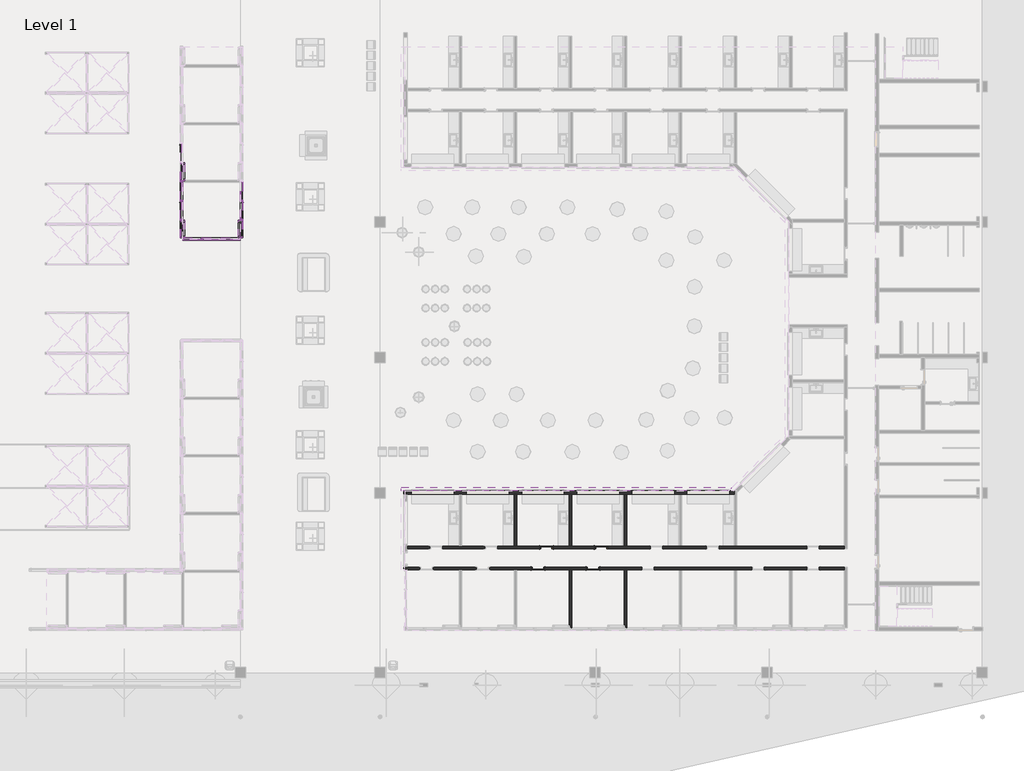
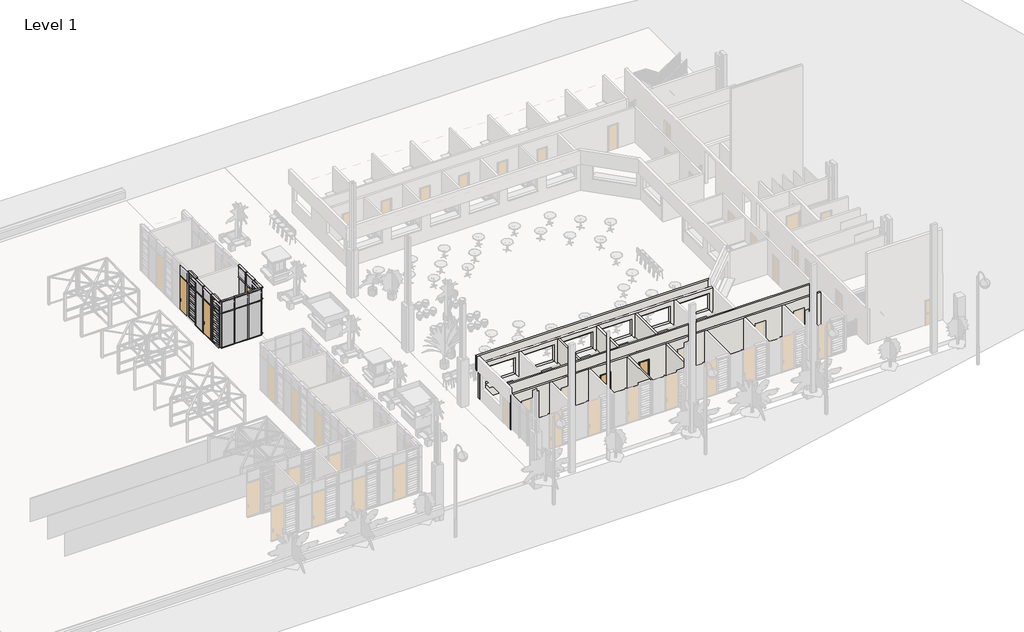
# One storey, part 10 of 32: 47 members, 19 plates, 9 walls, 7 doors.
"""IFC4 building model written with IfcOpenShell, lengths in millimetres."""

from ifc_helpers import new_model, si_unit, frame, origin, place, context, project, spatial, polyline, outline, extrude, faceted_brep, transform, mapped, element, save
from components import curtain_wall_door_single_glass_nz_curtain_wall_door_single_2bf20aac, curtain_wall_door_single_glass_nz_curtain_wall_door_single_ff8afd41, doors_intsgl_1_760x2110mm_a62a0124, rectangular_mullion_50x150mm_c4504768, rectangular_mullion_50x150mm_6c7cb899, rectangular_mullion_50x150mm_b0af8bb0, rectangular_mullion_50x150mm_bbc1c4ea, rectangular_mullion_50x150mm_1a36453b, rectangular_mullion_50x150mm_a65b6ca2, rectangular_mullion_50x150mm_38419d34, rectangular_mullion_50x150mm_eeb88b28, rectangular_mullion_50x150mm_68c91185, rectangular_mullion_50x150mm_0d540e17, rectangular_mullion_50x150mm_108cdc6f, rectangular_mullion_50x150mm_375c3673, rectangular_mullion_50x150mm_9239b3be, curtain_wall_panel_louver_20805_curtain_wall_panel_louver_14332c5b, curtain_wall_panel_louver_20805_curtain_wall_panel_louver_d3fb298f, curtain_wall_panel_louver_20805_curtain_wall_panel_louver_ac1eef51, curtain_wall_panel_glass_louver_20805_curtain_wall_panel_0f8e40a1, curtain_wall_panel_glass_louver_20805_curtain_wall_panel_1d079b44, curtain_wall_panel_glass_louver_20805_curtain_wall_panel_de26d37e, system_panel_glazed_a5e8ce8b, system_panel_glazed_7622d22c, system_panel_glazed_53fe5bbb, system_panel_glazed_57f08e05, system_panel_glazed_300e6ed4, system_panel_solid_585523e5, system_panel_solid_10c0fb46

model = new_model("IFC4")

# Units and contexts
model_context = context("Model", 3, world=origin())
ifc_project = project(units=[si_unit("LENGTHUNIT", "METRE", prefix="MILLI")], contexts=[model_context])

# Site, building, storey
site = spatial("IfcSite", under=ifc_project)
building = spatial("IfcBuilding", under=site)
storey = spatial("IfcBuildingStorey", under=building, Name="Level 1", Elevation=2800.0)

# Doors
placement = place(None, origin())
curtain_wall_door_single_glass_nz_curtain_wall_door_single_shape = curtain_wall_door_single_glass_nz_curtain_wall_door_single_2bf20aac(model_context)
element("IfcDoor", 1, ObjectType="Curtain Wall Door-Single-Glass (NZ) : Curtain Wall Door-Single-Glass (NZ)", at=placement, inside=storey, context=model_context, shape_type="MappedRepresentation", body=[
    mapped(curtain_wall_door_single_glass_nz_curtain_wall_door_single_shape, transform((-55155.3056755, -9355.9199596, 2850.0), x_axis=(0.0, -1.0, 0.0), y_axis=(1.0, 0.0, 0.0), z_axis=(0.0, 0.0, 1.0))),
])
curtain_wall_door_single_glass_nz_curtain_wall_door_single_2_shape = curtain_wall_door_single_glass_nz_curtain_wall_door_single_ff8afd41(model_context)
element("IfcDoor", 2, ObjectType="Curtain Wall Door-Single-Glass (NZ) : Curtain Wall Door-Single-Glass (NZ)", at=placement, inside=storey, context=model_context, shape_type="MappedRepresentation", body=[
    mapped(curtain_wall_door_single_glass_nz_curtain_wall_door_single_2_shape, transform((-58605.3056755, -6055.9199597, 2850.0), x_axis=(0.0, -1.0, 0.0), y_axis=(1.0, 0.0, 0.0), z_axis=(0.0, 0.0, 1.0))),
])
element("IfcDoor", 3, ObjectType="Curtain Wall Door-Single-Glass (NZ) : Curtain Wall Door-Single-Glass (NZ)", at=placement, inside=storey, context=model_context, shape_type="MappedRepresentation", body=[
    mapped(curtain_wall_door_single_glass_nz_curtain_wall_door_single_2_shape, transform((-58605.3056755, -9355.9199596, 2850.0), x_axis=(0.0, -1.0, 0.0), y_axis=(1.0, 0.0, 0.0), z_axis=(0.0, 0.0, 1.0))),
])
doors_intsgl_1_760x2110mm_shape = doors_intsgl_1_760x2110mm_a62a0124(model_context)
element("IfcDoor", 4, ObjectType="Doors_IntSgl_1 : 760x2110mm", at=placement, inside=storey, context=model_context, shape_type="MappedRepresentation", body=[
    mapped(doors_intsgl_1_760x2110mm_shape, transform((-35050.9339353, -29855.9199596, 2800.0), x_axis=(-1.0, 0.0, 0.0), y_axis=(0.0, -1.0, 0.0), z_axis=(0.0, 0.0, 1.0))),
])
element("IfcDoor", 5, ObjectType="Doors_IntSgl_1 : 760x2110mm", at=placement, inside=storey, context=model_context, shape_type="MappedRepresentation", body=[
    mapped(doors_intsgl_1_760x2110mm_shape, transform((-38200.9339353, -29855.9199596, 2800.0), x_axis=(-1.0, 0.0, 0.0), y_axis=(0.0, -1.0, 0.0), z_axis=(0.0, 0.0, 1.0))),
])
element("IfcDoor", 6, ObjectType="Doors_IntSgl_1 : 760x2110mm", at=placement, inside=storey, context=model_context, shape_type="MappedRepresentation", body=[
    mapped(doors_intsgl_1_760x2110mm_shape, transform((-34571.3056755, -28655.9199596, 2800.0), x_axis=(1.0, 0.0, 0.0), y_axis=(0.0, 1.0, 0.0), z_axis=(0.0, 0.0, 1.0))),
])
element("IfcDoor", 7, ObjectType="Doors_IntSgl_1 : 760x2110mm", at=placement, inside=storey, context=model_context, shape_type="MappedRepresentation", body=[
    mapped(doors_intsgl_1_760x2110mm_shape, transform((-37716.7705062, -28655.9199596, 2800.0), x_axis=(1.0, 0.0, 0.0), y_axis=(0.0, 1.0, 0.0), z_axis=(0.0, 0.0, 1.0))),
])

# Members
rectangular_mullion_50x150mm_shape = rectangular_mullion_50x150mm_c4504768(model_context)
element("IfcMember", 8, ObjectType="Rectangular Mullion : 50x150mm", at=placement, inside=storey, context=model_context, shape_type="MappedRepresentation", body=[
    mapped(rectangular_mullion_50x150mm_shape, transform((-55155.3056755, -8780.9199596, 5800.0), x_axis=(0.0, 0.0, 1.0), y_axis=(-1.0, 0.0, 0.0), z_axis=(0.0, -1.0, 0.0))),
])
element("IfcMember", 9, ObjectType="Rectangular Mullion : 50x150mm", at=placement, inside=storey, context=model_context, shape_type="MappedRepresentation", body=[
    mapped(rectangular_mullion_50x150mm_shape, transform((-55155.3056755, -9880.9199596, 5800.0), x_axis=(0.0, 0.0, 1.0), y_axis=(-1.0, 0.0, 0.0), z_axis=(0.0, -1.0, 0.0))),
])
element("IfcMember", 10, ObjectType="Rectangular Mullion : 50x150mm", at=placement, inside=storey, context=model_context, shape_type="MappedRepresentation", body=[
    mapped(rectangular_mullion_50x150mm_shape, transform((-57405.3056754, -11005.9199596, 5800.0), x_axis=(0.0, 0.0, 1.0), y_axis=(0.0, 1.0, 0.0), z_axis=(-1.0, 0.0, 0.0))),
])
rectangular_mullion_50x150mm_2_shape = rectangular_mullion_50x150mm_6c7cb899(model_context)
element("IfcMember", 11, ObjectType="Rectangular Mullion : 50x150mm", at=placement, inside=storey, context=model_context, shape_type="MappedRepresentation", body=[
    mapped(rectangular_mullion_50x150mm_2_shape, transform((-55155.3056755, -8805.9199596, 2800.0), x_axis=(0.0, -1.0, 0.0), y_axis=(-1.0, 0.0, 0.0), z_axis=(0.0, 0.0, -1.0))),
])
element("IfcMember", 12, ObjectType="Rectangular Mullion : 50x150mm", at=placement, inside=storey, context=model_context, shape_type="MappedRepresentation", body=[
    mapped(rectangular_mullion_50x150mm_2_shape, transform((-55155.3056755, -9905.9199596, 2800.0), x_axis=(0.0, -1.0, 0.0), y_axis=(-1.0, 0.0, 0.0), z_axis=(0.0, 0.0, -1.0))),
])
element("IfcMember", 13, ObjectType="Rectangular Mullion : 50x150mm", at=placement, inside=storey, context=model_context, shape_type="MappedRepresentation", body=[
    mapped(rectangular_mullion_50x150mm_2_shape, transform((-57430.3056754, -11005.9199596, 2800.0), x_axis=(-1.0, 0.0, 0.0), y_axis=(0.0, 1.0, 0.0), z_axis=(0.0, 0.0, -1.0))),
])
element("IfcMember", 14, ObjectType="Rectangular Mullion : 50x150mm", at=placement, inside=storey, context=model_context, shape_type="MappedRepresentation", body=[
    mapped(rectangular_mullion_50x150mm_2_shape, transform((-56330.3056756, -11005.9199596, 2800.0), x_axis=(-1.0, 0.0, 0.0), y_axis=(0.0, 1.0, 0.0), z_axis=(0.0, 0.0, -1.0))),
])
rectangular_mullion_50x150mm_3_shape = rectangular_mullion_50x150mm_b0af8bb0(model_context)
element("IfcMember", 15, ObjectType="Rectangular Mullion : 50x150mm", at=placement, inside=storey, context=model_context, shape_type="MappedRepresentation", body=[
    mapped(rectangular_mullion_50x150mm_3_shape, transform((-55155.3056755, -8830.9199596, 2800.0), x_axis=(0.0, 0.0, -1.0), y_axis=(-1.0, 0.0, 0.0), z_axis=(0.0, 1.0, 0.0))),
])
element("IfcMember", 16, ObjectType="Rectangular Mullion : 50x150mm", at=placement, inside=storey, context=model_context, shape_type="MappedRepresentation", body=[
    mapped(rectangular_mullion_50x150mm_3_shape, transform((-56355.3056756, -11005.9199596, 2800.0), x_axis=(0.0, 0.0, -1.0), y_axis=(0.0, 1.0, 0.0), z_axis=(1.0, 0.0, 0.0))),
])
rectangular_mullion_50x150mm_4_shape = rectangular_mullion_50x150mm_bbc1c4ea(model_context)
element("IfcMember", 17, ObjectType="Rectangular Mullion : 50x150mm", at=placement, inside=storey, context=model_context, shape_type="MappedRepresentation", body=[
    mapped(rectangular_mullion_50x150mm_4_shape, transform((-55155.3056755, -8805.9199596, 5800.0), x_axis=(0.0, -1.0, 0.0), y_axis=(-1.0, 0.0, 0.0), z_axis=(0.0, 0.0, -1.0))),
])
element("IfcMember", 18, ObjectType="Rectangular Mullion : 50x150mm", at=placement, inside=storey, context=model_context, shape_type="MappedRepresentation", body=[
    mapped(rectangular_mullion_50x150mm_4_shape, transform((-55155.3056755, -9905.9199596, 5800.0), x_axis=(0.0, -1.0, 0.0), y_axis=(-1.0, 0.0, 0.0), z_axis=(0.0, 0.0, -1.0))),
])
element("IfcMember", 19, ObjectType="Rectangular Mullion : 50x150mm", at=placement, inside=storey, context=model_context, shape_type="MappedRepresentation", body=[
    mapped(rectangular_mullion_50x150mm_4_shape, transform((-57430.3056754, -11005.9199596, 5800.0), x_axis=(-1.0, 0.0, 0.0), y_axis=(0.0, 1.0, 0.0), z_axis=(0.0, 0.0, -1.0))),
])
element("IfcMember", 20, ObjectType="Rectangular Mullion : 50x150mm", at=placement, inside=storey, context=model_context, shape_type="MappedRepresentation", body=[
    mapped(rectangular_mullion_50x150mm_4_shape, transform((-56330.3056756, -11005.9199596, 5800.0), x_axis=(-1.0, 0.0, 0.0), y_axis=(0.0, 1.0, 0.0), z_axis=(0.0, 0.0, -1.0))),
])
rectangular_mullion_50x150mm_5_shape = rectangular_mullion_50x150mm_1a36453b(model_context)
element("IfcMember", 21, ObjectType="Rectangular Mullion : 50x150mm", at=placement, inside=storey, context=model_context, shape_type="MappedRepresentation", body=[
    mapped(rectangular_mullion_50x150mm_5_shape, transform((-55155.3056755, -9880.9199596, 6800.0), x_axis=(0.0, 0.0, 1.0), y_axis=(-1.0, 0.0, 0.0), z_axis=(0.0, -1.0, 0.0))),
])
element("IfcMember", 22, ObjectType="Rectangular Mullion : 50x150mm", at=placement, inside=storey, context=model_context, shape_type="MappedRepresentation", body=[
    mapped(rectangular_mullion_50x150mm_5_shape, transform((-55155.3056755, -8780.9199596, 6800.0), x_axis=(0.0, 0.0, 1.0), y_axis=(-1.0, 0.0, 0.0), z_axis=(0.0, -1.0, 0.0))),
])
element("IfcMember", 23, ObjectType="Rectangular Mullion : 50x150mm", at=placement, inside=storey, context=model_context, shape_type="MappedRepresentation", body=[
    mapped(rectangular_mullion_50x150mm_5_shape, transform((-57405.3056754, -11005.9199596, 6800.0), x_axis=(0.0, 0.0, 1.0), y_axis=(0.0, 1.0, 0.0), z_axis=(-1.0, 0.0, 0.0))),
])
rectangular_mullion_50x150mm_6_shape = rectangular_mullion_50x150mm_a65b6ca2(model_context)
element("IfcMember", 24, ObjectType="Rectangular Mullion : 50x150mm", at=placement, inside=storey, context=model_context, shape_type="MappedRepresentation", body=[
    mapped(rectangular_mullion_50x150mm_6_shape, transform((-56305.3056756, -11005.9199596, 6800.0), x_axis=(0.0, 0.0, 1.0), y_axis=(0.0, 1.0, 0.0), z_axis=(-1.0, 0.0, 0.0))),
])
element("IfcMember", 25, ObjectType="Rectangular Mullion : 50x150mm", at=placement, inside=storey, context=model_context, shape_type="MappedRepresentation", body=[
    mapped(rectangular_mullion_50x150mm_6_shape, transform((-58480.3056755, -11005.9199596, 6800.0), x_axis=(0.0, 0.0, 1.0), y_axis=(0.0, 1.0, 0.0), z_axis=(-1.0, 0.0, 0.0))),
])
element("IfcMember", 26, ObjectType="Rectangular Mullion : 50x150mm", at=placement, inside=storey, context=model_context, shape_type="MappedRepresentation", body=[
    mapped(rectangular_mullion_50x150mm_6_shape, transform((-57455.3056754, -11005.9199596, 2800.0), x_axis=(0.0, 0.0, -1.0), y_axis=(0.0, 1.0, 0.0), z_axis=(1.0, 0.0, 0.0))),
])
element("IfcMember", 27, ObjectType="Rectangular Mullion : 50x150mm", at=placement, inside=storey, context=model_context, shape_type="MappedRepresentation", body=[
    mapped(rectangular_mullion_50x150mm_6_shape, transform((-55280.3056755, -11005.9199596, 2800.0), x_axis=(0.0, 0.0, -1.0), y_axis=(0.0, 1.0, 0.0), z_axis=(1.0, 0.0, 0.0))),
])
rectangular_mullion_50x150mm_7_shape = rectangular_mullion_50x150mm_38419d34(model_context)
element("IfcMember", 28, ObjectType="Rectangular Mullion : 50x150mm", at=placement, inside=storey, context=model_context, shape_type="MappedRepresentation", body=[
    mapped(rectangular_mullion_50x150mm_7_shape, transform((-58480.3056755, -11005.9199596, 5800.0), x_axis=(0.0, 0.0, 1.0), y_axis=(0.0, 1.0, 0.0), z_axis=(-1.0, 0.0, 0.0))),
])
element("IfcMember", 29, ObjectType="Rectangular Mullion : 50x150mm", at=placement, inside=storey, context=model_context, shape_type="MappedRepresentation", body=[
    mapped(rectangular_mullion_50x150mm_7_shape, transform((-56305.3056756, -11005.9199596, 5800.0), x_axis=(0.0, 0.0, 1.0), y_axis=(0.0, 1.0, 0.0), z_axis=(-1.0, 0.0, 0.0))),
])
rectangular_mullion_50x150mm_8_shape = rectangular_mullion_50x150mm_eeb88b28(model_context)
element("IfcMember", 30, ObjectType="Rectangular Mullion : 50x150mm", at=placement, inside=storey, context=model_context, shape_type="MappedRepresentation", body=[
    mapped(rectangular_mullion_50x150mm_8_shape, transform((-55230.3056755, -11005.9199596, 6800.0), x_axis=(1.0, 0.0, 0.0), y_axis=(0.0, 1.0, 0.0), z_axis=(0.0, 0.0, 1.0))),
])
rectangular_mullion_50x150mm_9_shape = rectangular_mullion_50x150mm_68c91185(model_context)
element("IfcMember", 31, ObjectType="Rectangular Mullion : 50x150mm", at=placement, inside=storey, context=model_context, shape_type="MappedRepresentation", body=[
    mapped(rectangular_mullion_50x150mm_9_shape, transform((-58530.3056755, -11005.9199596, 2800.0), x_axis=(-1.0, 0.0, 0.0), y_axis=(0.0, 1.0, 0.0), z_axis=(0.0, 0.0, -1.0))),
])
element("IfcMember", 32, ObjectType="Rectangular Mullion : 50x150mm", at=placement, inside=storey, context=model_context, shape_type="MappedRepresentation", body=[
    mapped(rectangular_mullion_50x150mm_8_shape, transform((-58530.3056755, -11005.9199596, 5800.0), x_axis=(-1.0, 0.0, 0.0), y_axis=(0.0, 1.0, 0.0), z_axis=(0.0, 0.0, -1.0))),
])
element("IfcMember", 33, ObjectType="Rectangular Mullion : 50x150mm", at=placement, inside=storey, context=model_context, shape_type="MappedRepresentation", body=[
    mapped(rectangular_mullion_50x150mm_9_shape, transform((-55230.3056755, -11005.9199596, 5800.0), x_axis=(1.0, 0.0, 0.0), y_axis=(0.0, 1.0, 0.0), z_axis=(0.0, 0.0, 1.0))),
])
element("IfcMember", 34, ObjectType="Rectangular Mullion : 50x150mm", at=placement, inside=storey, context=model_context, shape_type="MappedRepresentation", body=[
    mapped(rectangular_mullion_50x150mm_4_shape, transform((-58605.3056755, -7705.9199596, 5800.0), x_axis=(0.0, -1.0, 0.0), y_axis=(-1.0, 0.0, 0.0), z_axis=(0.0, 0.0, -1.0))),
])
element("IfcMember", 35, ObjectType="Rectangular Mullion : 50x150mm", at=placement, inside=storey, context=model_context, shape_type="MappedRepresentation", body=[
    mapped(rectangular_mullion_50x150mm_4_shape, transform((-58605.3056755, -8805.9199596, 5800.0), x_axis=(0.0, -1.0, 0.0), y_axis=(-1.0, 0.0, 0.0), z_axis=(0.0, 0.0, -1.0))),
])
element("IfcMember", 36, ObjectType="Rectangular Mullion : 50x150mm", at=placement, inside=storey, context=model_context, shape_type="MappedRepresentation", body=[
    mapped(rectangular_mullion_50x150mm_4_shape, transform((-58605.3056755, -9905.9199596, 5800.0), x_axis=(0.0, -1.0, 0.0), y_axis=(-1.0, 0.0, 0.0), z_axis=(0.0, 0.0, -1.0))),
])
element("IfcMember", 37, ObjectType="Rectangular Mullion : 50x150mm", at=placement, inside=storey, context=model_context, shape_type="MappedRepresentation", body=[
    mapped(rectangular_mullion_50x150mm_2_shape, transform((-58605.3056755, -7705.9199596, 2800.0), x_axis=(0.0, -1.0, 0.0), y_axis=(-1.0, 0.0, 0.0), z_axis=(0.0, 0.0, -1.0))),
])
element("IfcMember", 38, ObjectType="Rectangular Mullion : 50x150mm", at=placement, inside=storey, context=model_context, shape_type="MappedRepresentation", body=[
    mapped(rectangular_mullion_50x150mm_2_shape, transform((-58605.3056755, -8805.9199596, 2800.0), x_axis=(0.0, -1.0, 0.0), y_axis=(-1.0, 0.0, 0.0), z_axis=(0.0, 0.0, -1.0))),
])
element("IfcMember", 39, ObjectType="Rectangular Mullion : 50x150mm", at=placement, inside=storey, context=model_context, shape_type="MappedRepresentation", body=[
    mapped(rectangular_mullion_50x150mm_2_shape, transform((-58605.3056755, -9905.9199596, 2800.0), x_axis=(0.0, -1.0, 0.0), y_axis=(-1.0, 0.0, 0.0), z_axis=(0.0, 0.0, -1.0))),
])
rectangular_mullion_50x150mm_10_shape = rectangular_mullion_50x150mm_0d540e17(model_context)
element("IfcMember", 40, ObjectType="Rectangular Mullion : 50x150mm", at=placement, inside=storey, context=model_context, shape_type="MappedRepresentation", body=[
    mapped(rectangular_mullion_50x150mm_10_shape, transform((-58605.3056755, -8780.9199596, 5800.0), x_axis=(0.0, 0.0, 1.0), y_axis=(-1.0, 0.0, 0.0), z_axis=(0.0, -1.0, 0.0))),
])
element("IfcMember", 41, ObjectType="Rectangular Mullion : 50x150mm", at=placement, inside=storey, context=model_context, shape_type="MappedRepresentation", body=[
    mapped(rectangular_mullion_50x150mm_10_shape, transform((-58605.3056755, -7680.9199596, 5800.0), x_axis=(0.0, 0.0, 1.0), y_axis=(-1.0, 0.0, 0.0), z_axis=(0.0, -1.0, 0.0))),
])
element("IfcMember", 42, ObjectType="Rectangular Mullion : 50x150mm", at=placement, inside=storey, context=model_context, shape_type="MappedRepresentation", body=[
    mapped(rectangular_mullion_50x150mm_10_shape, transform((-58605.3056755, -6580.9199596, 5800.0), x_axis=(0.0, 0.0, 1.0), y_axis=(-1.0, 0.0, 0.0), z_axis=(0.0, -1.0, 0.0))),
])
element("IfcMember", 43, ObjectType="Rectangular Mullion : 50x150mm", at=placement, inside=storey, context=model_context, shape_type="MappedRepresentation", body=[
    mapped(rectangular_mullion_50x150mm_10_shape, transform((-58605.3056755, -9880.9199596, 5800.0), x_axis=(0.0, 0.0, 1.0), y_axis=(-1.0, 0.0, 0.0), z_axis=(0.0, -1.0, 0.0))),
])
rectangular_mullion_50x150mm_11_shape = rectangular_mullion_50x150mm_108cdc6f(model_context)
element("IfcMember", 44, ObjectType="Rectangular Mullion : 50x150mm", at=placement, inside=storey, context=model_context, shape_type="MappedRepresentation", body=[
    mapped(rectangular_mullion_50x150mm_11_shape, transform((-58605.3056755, -7730.9199596, 2800.0), x_axis=(0.0, 0.0, -1.0), y_axis=(-1.0, 0.0, 0.0), z_axis=(0.0, 1.0, 0.0))),
])
element("IfcMember", 45, ObjectType="Rectangular Mullion : 50x150mm", at=placement, inside=storey, context=model_context, shape_type="MappedRepresentation", body=[
    mapped(rectangular_mullion_50x150mm_11_shape, transform((-58605.3056755, -8830.9199596, 2800.0), x_axis=(0.0, 0.0, -1.0), y_axis=(-1.0, 0.0, 0.0), z_axis=(0.0, 1.0, 0.0))),
])
element("IfcMember", 46, ObjectType="Rectangular Mullion : 50x150mm", at=placement, inside=storey, context=model_context, shape_type="MappedRepresentation", body=[
    mapped(rectangular_mullion_50x150mm_5_shape, transform((-58605.3056755, -9880.9199596, 6800.0), x_axis=(0.0, 0.0, 1.0), y_axis=(-1.0, 0.0, 0.0), z_axis=(0.0, -1.0, 0.0))),
])
element("IfcMember", 47, ObjectType="Rectangular Mullion : 50x150mm", at=placement, inside=storey, context=model_context, shape_type="MappedRepresentation", body=[
    mapped(rectangular_mullion_50x150mm_5_shape, transform((-58605.3056755, -7680.9199596, 6800.0), x_axis=(0.0, 0.0, 1.0), y_axis=(-1.0, 0.0, 0.0), z_axis=(0.0, -1.0, 0.0))),
])
element("IfcMember", 48, ObjectType="Rectangular Mullion : 50x150mm", at=placement, inside=storey, context=model_context, shape_type="MappedRepresentation", body=[
    mapped(rectangular_mullion_50x150mm_5_shape, transform((-58605.3056755, -8780.9199596, 6800.0), x_axis=(0.0, 0.0, 1.0), y_axis=(-1.0, 0.0, 0.0), z_axis=(0.0, -1.0, 0.0))),
])
rectangular_mullion_50x150mm_12_shape = rectangular_mullion_50x150mm_375c3673(model_context)
element("IfcMember", 49, ObjectType="Rectangular Mullion : 50x150mm", at=placement, inside=storey, context=model_context, shape_type="MappedRepresentation", body=[
    mapped(rectangular_mullion_50x150mm_12_shape, transform((-58605.3056755, -10943.4199596, 5800.0), x_axis=(0.0, 0.0, 1.0), y_axis=(-1.0, 0.0, 0.0), z_axis=(0.0, -1.0, 0.0))),
])
rectangular_mullion_50x150mm_13_shape = rectangular_mullion_50x150mm_9239b3be(model_context)
element("IfcMember", 50, ObjectType="Rectangular Mullion : 50x150mm", at=placement, inside=storey, context=model_context, shape_type="MappedRepresentation", body=[
    mapped(rectangular_mullion_50x150mm_13_shape, transform((-58605.3056755, -9930.9199596, 2800.0), x_axis=(0.0, 0.0, -1.0), y_axis=(-1.0, 0.0, 0.0), z_axis=(0.0, 1.0, 0.0))),
])
element("IfcMember", 51, ObjectType="Rectangular Mullion : 50x150mm", at=placement, inside=storey, context=model_context, shape_type="MappedRepresentation", body=[
    mapped(rectangular_mullion_50x150mm_13_shape, transform((-58605.3056755, -10943.4199596, 6800.0), x_axis=(0.0, 0.0, 1.0), y_axis=(-1.0, 0.0, 0.0), z_axis=(0.0, -1.0, 0.0))),
])
element("IfcMember", 52, ObjectType="Rectangular Mullion : 50x150mm", at=placement, inside=storey, context=model_context, shape_type="MappedRepresentation", body=[
    mapped(rectangular_mullion_50x150mm_12_shape, transform((-55155.3056755, -10943.4199596, 5800.0), x_axis=(0.0, 0.0, 1.0), y_axis=(-1.0, 0.0, 0.0), z_axis=(0.0, -1.0, 0.0))),
])
element("IfcMember", 53, ObjectType="Rectangular Mullion : 50x150mm", at=placement, inside=storey, context=model_context, shape_type="MappedRepresentation", body=[
    mapped(rectangular_mullion_50x150mm_13_shape, transform((-55155.3056755, -9930.9199596, 2800.0), x_axis=(0.0, 0.0, -1.0), y_axis=(-1.0, 0.0, 0.0), z_axis=(0.0, 1.0, 0.0))),
])
element("IfcMember", 54, ObjectType="Rectangular Mullion : 50x150mm", at=placement, inside=storey, context=model_context, shape_type="MappedRepresentation", body=[
    mapped(rectangular_mullion_50x150mm_13_shape, transform((-55155.3056755, -10943.4199596, 6800.0), x_axis=(0.0, 0.0, 1.0), y_axis=(-1.0, 0.0, 0.0), z_axis=(0.0, -1.0, 0.0))),
])

# Plates
curtain_wall_panel_louver_20805_curtain_wall_panel_louver_shape = curtain_wall_panel_louver_20805_curtain_wall_panel_louver_14332c5b(model_context)
element("IfcPlate", 55, ObjectType="Curtain_wall_panel_-_Louver_20805 : Curtain_wall_panel_-_Louver_20805", at=placement, inside=storey, context=model_context, shape_type="MappedRepresentation", body=[
    mapped(curtain_wall_panel_louver_20805_curtain_wall_panel_louver_shape, transform((-58605.3056755, -7155.9199596, 5825.0), x_axis=(0.0, -1.0, 0.0), y_axis=(1.0, 0.0, 0.0), z_axis=(0.0, 0.0, 1.0))),
])
curtain_wall_panel_louver_20805_curtain_wall_panel_louver_2_shape = curtain_wall_panel_louver_20805_curtain_wall_panel_louver_d3fb298f(model_context)
element("IfcPlate", 56, ObjectType="Curtain_wall_panel_-_Louver_20805 : Curtain_wall_panel_-_Louver_20805", at=placement, inside=storey, context=model_context, shape_type="MappedRepresentation", body=[
    mapped(curtain_wall_panel_louver_20805_curtain_wall_panel_louver_2_shape, transform((-58605.3056755, -10437.1699596, 5825.0), x_axis=(0.0, -1.0, 0.0), y_axis=(1.0, 0.0, 0.0), z_axis=(0.0, 0.0, 1.0))),
])
curtain_wall_panel_louver_20805_curtain_wall_panel_louver_3_shape = curtain_wall_panel_louver_20805_curtain_wall_panel_louver_ac1eef51(model_context)
element("IfcPlate", 57, ObjectType="Curtain_wall_panel_-_Louver_20805 : Curtain_wall_panel_-_Louver_20805", at=placement, inside=storey, context=model_context, shape_type="MappedRepresentation", body=[
    mapped(curtain_wall_panel_louver_20805_curtain_wall_panel_louver_3_shape, transform((-55155.3056755, -10437.1699596, 5825.0), x_axis=(0.0, -1.0, 0.0), y_axis=(1.0, 0.0, 0.0), z_axis=(0.0, 0.0, 1.0))),
])
curtain_wall_panel_glass_louver_20805_curtain_wall_panel_shape = curtain_wall_panel_glass_louver_20805_curtain_wall_panel_0f8e40a1(model_context)
element("IfcPlate", 58, ObjectType="Curtain_wall_panel_glass_Louver_20805 : Curtain_wall_panel_glass_Louver_20805", at=placement, inside=storey, context=model_context, shape_type="MappedRepresentation", body=[
    mapped(curtain_wall_panel_glass_louver_20805_curtain_wall_panel_shape, transform((-58605.3056755, -7155.9199596, 2850.0), x_axis=(0.0, -1.0, 0.0), y_axis=(1.0, 0.0, 0.0), z_axis=(0.0, 0.0, 1.0))),
])
curtain_wall_panel_glass_louver_20805_curtain_wall_panel_2_shape = curtain_wall_panel_glass_louver_20805_curtain_wall_panel_1d079b44(model_context)
element("IfcPlate", 59, ObjectType="Curtain_wall_panel_glass_Louver_20805 : Curtain_wall_panel_glass_Louver_20805", at=placement, inside=storey, context=model_context, shape_type="MappedRepresentation", body=[
    mapped(curtain_wall_panel_glass_louver_20805_curtain_wall_panel_2_shape, transform((-58605.3056755, -10437.1699596, 2850.0), x_axis=(0.0, -1.0, 0.0), y_axis=(1.0, 0.0, 0.0), z_axis=(0.0, 0.0, 1.0))),
])
curtain_wall_panel_glass_louver_20805_curtain_wall_panel_3_shape = curtain_wall_panel_glass_louver_20805_curtain_wall_panel_de26d37e(model_context)
element("IfcPlate", 60, ObjectType="Curtain_wall_panel_glass_Louver_20805 : Curtain_wall_panel_glass_Louver_20805", at=placement, inside=storey, context=model_context, shape_type="MappedRepresentation", body=[
    mapped(curtain_wall_panel_glass_louver_20805_curtain_wall_panel_3_shape, transform((-55155.3056755, -10437.1699596, 2850.0), x_axis=(0.0, -1.0, 0.0), y_axis=(1.0, 0.0, 0.0), z_axis=(0.0, 0.0, 1.0))),
])
system_panel_glazed_shape = system_panel_glazed_a5e8ce8b(model_context)
element("IfcPlate", 61, ObjectType="System Panel : Glazed", at=placement, inside=storey, context=model_context, shape_type="MappedRepresentation", body=[
    mapped(system_panel_glazed_shape, transform((-56880.3056755, -11005.9199596, 2850.0), x_axis=(-1.0, 0.0, 0.0), y_axis=(0.0, -1.0, 0.0), z_axis=(0.0, 0.0, 1.0))),
])
element("IfcPlate", 62, ObjectType="System Panel : Glazed", at=placement, inside=storey, context=model_context, shape_type="MappedRepresentation", body=[
    mapped(system_panel_glazed_shape, transform((-55155.3056755, -8255.9199596, 2850.0), x_axis=(0.0, -1.0, 0.0), y_axis=(1.0, 0.0, 0.0), z_axis=(0.0, 0.0, 1.0))),
])
system_panel_glazed_2_shape = system_panel_glazed_7622d22c(model_context)
element("IfcPlate", 63, ObjectType="System Panel : Glazed", at=placement, inside=storey, context=model_context, shape_type="MappedRepresentation", body=[
    mapped(system_panel_glazed_2_shape, transform((-55792.8056755, -11005.9199596, 2850.0), x_axis=(-1.0, 0.0, 0.0), y_axis=(0.0, -1.0, 0.0), z_axis=(0.0, 0.0, 1.0))),
])
element("IfcPlate", 64, ObjectType="System Panel : Glazed", at=placement, inside=storey, context=model_context, shape_type="MappedRepresentation", body=[
    mapped(system_panel_glazed_2_shape, transform((-57967.8056754, -11005.9199596, 2850.0), x_axis=(-1.0, 0.0, 0.0), y_axis=(0.0, -1.0, 0.0), z_axis=(0.0, 0.0, 1.0))),
])
system_panel_glazed_3_shape = system_panel_glazed_53fe5bbb(model_context)
element("IfcPlate", 65, ObjectType="System Panel : Glazed", at=placement, inside=storey, context=model_context, shape_type="MappedRepresentation", body=[
    mapped(system_panel_glazed_3_shape, transform((-58605.3056755, -8255.9199596, 2850.0), x_axis=(0.0, -1.0, 0.0), y_axis=(1.0, 0.0, 0.0), z_axis=(0.0, 0.0, 1.0))),
])
system_panel_glazed_4_shape = system_panel_glazed_57f08e05(model_context)
element("IfcPlate", 66, ObjectType="System Panel : Glazed", at=placement, inside=storey, context=model_context, shape_type="MappedRepresentation", body=[
    mapped(system_panel_glazed_4_shape, transform((-56880.3056755, -11005.9199596, 5825.0), x_axis=(-1.0, 0.0, 0.0), y_axis=(0.0, -1.0, 0.0), z_axis=(0.0, 0.0, 1.0))),
])
system_panel_glazed_5_shape = system_panel_glazed_300e6ed4(model_context)
element("IfcPlate", 67, ObjectType="System Panel : Glazed", at=placement, inside=storey, context=model_context, shape_type="MappedRepresentation", body=[
    mapped(system_panel_glazed_5_shape, transform((-55792.8056755, -11005.9199596, 5825.0), x_axis=(-1.0, 0.0, 0.0), y_axis=(0.0, -1.0, 0.0), z_axis=(0.0, 0.0, 1.0))),
])
element("IfcPlate", 68, ObjectType="System Panel : Glazed", at=placement, inside=storey, context=model_context, shape_type="MappedRepresentation", body=[
    mapped(system_panel_glazed_5_shape, transform((-57967.8056754, -11005.9199596, 5825.0), x_axis=(-1.0, 0.0, 0.0), y_axis=(0.0, -1.0, 0.0), z_axis=(0.0, 0.0, 1.0))),
])
system_panel_solid_shape = system_panel_solid_585523e5(model_context)
element("IfcPlate", 69, ObjectType="System Panel : Solid", at=placement, inside=storey, context=model_context, shape_type="MappedRepresentation", body=[
    mapped(system_panel_solid_shape, transform((-55155.3056755, -8255.9199596, 5825.0), x_axis=(0.0, -1.0, 0.0), y_axis=(1.0, 0.0, 0.0), z_axis=(0.0, 0.0, 1.0))),
])
element("IfcPlate", 70, ObjectType="System Panel : Solid", at=placement, inside=storey, context=model_context, shape_type="MappedRepresentation", body=[
    mapped(system_panel_solid_shape, transform((-55155.3056755, -9355.9199596, 5825.0), x_axis=(0.0, -1.0, 0.0), y_axis=(1.0, 0.0, 0.0), z_axis=(0.0, 0.0, 1.0))),
])
system_panel_solid_2_shape = system_panel_solid_10c0fb46(model_context)
element("IfcPlate", 71, ObjectType="System Panel : Solid", at=placement, inside=storey, context=model_context, shape_type="MappedRepresentation", body=[
    mapped(system_panel_solid_2_shape, transform((-58605.3056755, -6055.9199597, 5825.0), x_axis=(0.0, -1.0, 0.0), y_axis=(1.0, 0.0, 0.0), z_axis=(0.0, 0.0, 1.0))),
])
element("IfcPlate", 72, ObjectType="System Panel : Solid", at=placement, inside=storey, context=model_context, shape_type="MappedRepresentation", body=[
    mapped(system_panel_solid_2_shape, transform((-58605.3056755, -8255.9199596, 5825.0), x_axis=(0.0, -1.0, 0.0), y_axis=(1.0, 0.0, 0.0), z_axis=(0.0, 0.0, 1.0))),
])
element("IfcPlate", 73, ObjectType="System Panel : Solid", at=placement, inside=storey, context=model_context, shape_type="MappedRepresentation", body=[
    mapped(system_panel_solid_2_shape, transform((-58605.3056755, -9355.9199596, 5825.0), x_axis=(0.0, -1.0, 0.0), y_axis=(1.0, 0.0, 0.0), z_axis=(0.0, 0.0, 1.0))),
])

# Walls
element("IfcWall", 74, ObjectType="150cmu", at=placement, inside=storey, context=model_context, shape_type="Brep", body=[
    faceted_brep([(-45885.9339353, -29780.9199596, 5800.0), (-45685.9339353, -29780.9199596, 5800.0), (-20660.9339353, -29780.9199596, 5800.0), (-20660.9339353, -29780.9199596, 2800.0), (-22090.9339353, -29780.9199596, 2800.0), (-22090.9339353, -29780.9199596, 4910.0), (-22810.9339353, -29780.9199596, 4910.0), (-22810.9339353, -29780.9199596, 2800.0), (-25240.9339353, -29780.9199596, 2800.0), (-25240.9339353, -29780.9199596, 4910.0), (-25960.9339353, -29780.9199596, 4910.0), (-25960.9339353, -29780.9199596, 2800.0), (-31540.9339353, -29780.9199596, 2800.0), (-31540.9339353, -29780.9199596, 4910.0), (-32260.9339353, -29780.9199596, 4910.0), (-32260.9339353, -29780.9199596, 2800.0), (-34690.9339353, -29780.9199596, 2800.0), (-34690.9339353, -29780.9199596, 4910.0), (-35410.9339353, -29780.9199596, 4910.0), (-35410.9339353, -29780.9199596, 2800.0), (-37840.9339353, -29780.9199596, 2800.0), (-37840.9339353, -29780.9199596, 4910.0), (-38560.9339353, -29780.9199596, 4910.0), (-38560.9339353, -29780.9199596, 2800.0), (-40990.9339353, -29780.9199596, 2800.0), (-40990.9339353, -29780.9199596, 4910.0), (-41710.9339353, -29780.9199596, 4910.0), (-41710.9339353, -29780.9199596, 2800.0), (-44215.9339353, -29780.9199596, 2800.0), (-44215.9339353, -29780.9199596, 4910.0), (-44935.9339353, -29780.9199596, 4910.0), (-44935.9339353, -29780.9199596, 2800.0), (-45685.9339353, -29780.9199596, 2800.0), (-45885.9339353, -29780.9199596, 2800.0), (-20660.9339353, -29930.9199596, 5800.0), (-23660.9339353, -29930.9199596, 5800.0), (-23810.9339353, -29930.9199596, 5800.0), (-26810.9339353, -29930.9199596, 5800.0), (-26960.9339353, -29930.9199596, 5800.0), (-29960.9339353, -29930.9199596, 5800.0), (-30110.9339353, -29930.9199596, 5800.0), (-33110.9339353, -29930.9199596, 5800.0), (-33260.9339353, -29930.9199596, 5800.0), (-36260.9339353, -29930.9199596, 5800.0), (-36410.9339353, -29930.9199596, 5800.0), (-39410.9339353, -29930.9199596, 5800.0), (-39560.9339353, -29930.9199596, 5800.0), (-42560.9339353, -29930.9199596, 5800.0), (-42710.9339353, -29930.9199596, 5800.0), (-45885.9339353, -29930.9199596, 5800.0), (-45885.9339353, -29930.9199596, 2800.0), (-44935.9339353, -29930.9199596, 2800.0), (-44935.9339353, -29930.9199596, 4910.0), (-44215.9339353, -29930.9199596, 4910.0), (-44215.9339353, -29930.9199596, 2800.0), (-42710.9339353, -29930.9199596, 2800.0), (-42560.9339353, -29930.9199596, 2800.0), (-41710.9339353, -29930.9199596, 2800.0), (-41710.9339353, -29930.9199596, 4910.0), (-40990.9339353, -29930.9199596, 4910.0), (-40990.9339353, -29930.9199596, 2800.0), (-39560.9339353, -29930.9199596, 2800.0), (-39410.9339353, -29930.9199596, 2800.0), (-38560.9339353, -29930.9199596, 2800.0), (-38560.9339353, -29930.9199596, 4910.0), (-37840.9339353, -29930.9199596, 4910.0), (-37840.9339353, -29930.9199596, 2800.0), (-36410.9339353, -29930.9199596, 2800.0), (-36260.9339353, -29930.9199596, 2800.0), (-35410.9339353, -29930.9199596, 2800.0), (-35410.9339353, -29930.9199596, 4910.0), (-34690.9339353, -29930.9199596, 4910.0), (-34690.9339353, -29930.9199596, 2800.0), (-33260.9339353, -29930.9199596, 2800.0), (-33110.9339353, -29930.9199596, 2800.0), (-32260.9339353, -29930.9199596, 2800.0), (-32260.9339353, -29930.9199596, 4910.0), (-31540.9339353, -29930.9199596, 4910.0), (-31540.9339353, -29930.9199596, 2800.0), (-30110.9339353, -29930.9199596, 2800.0), (-29960.9339353, -29930.9199596, 2800.0), (-26960.9339353, -29930.9199596, 2800.0), (-26810.9339353, -29930.9199596, 2800.0), (-25960.9339353, -29930.9199596, 2800.0), (-25960.9339353, -29930.9199596, 4910.0), (-25240.9339353, -29930.9199596, 4910.0), (-25240.9339353, -29930.9199596, 2800.0), (-23810.9339353, -29930.9199596, 2800.0), (-23660.9339353, -29930.9199596, 2800.0), (-22810.9339353, -29930.9199596, 2800.0), (-22810.9339353, -29930.9199596, 4910.0), (-22090.9339353, -29930.9199596, 4910.0), (-22090.9339353, -29930.9199596, 2800.0), (-20660.9339353, -29930.9199596, 2800.0)], [[[0, 1, 2, 3, 4, 5, 6, 7, 8, 9, 10, 11, 12, 13, 14, 15, 16, 17, 18, 19, 20, 21, 22, 23, 24, 25, 26, 27, 28, 29, 30, 31, 32, 33]], [[34, 35, 36, 37, 38, 39, 40, 41, 42, 43, 44, 45, 46, 47, 48, 49, 50, 51, 52, 53, 54, 55, 56, 57, 58, 59, 60, 61, 62, 63, 64, 65, 66, 67, 68, 69, 70, 71, 72, 73, 74, 75, 76, 77, 78, 79, 80, 81, 82, 83, 84, 85, 86, 87, 88, 89, 90, 91, 92, 93]], [[3, 93, 92, 4]], [[7, 89, 88, 87, 86, 8]], [[11, 83, 82, 81, 80, 79, 78, 12]], [[15, 75, 74, 73, 72, 16]], [[19, 69, 68, 67, 66, 20]], [[31, 51, 50, 33, 32]], [[54, 28, 27, 57, 56, 55]], [[23, 63, 62, 61, 60, 24]], [[2, 1, 0, 49, 48, 47, 46, 45, 44, 43, 42, 41, 40, 39, 38, 37, 36, 35, 34]], [[3, 2, 34, 93]], [[6, 90, 89, 7]], [[90, 6, 5, 91]], [[91, 5, 4, 92]], [[10, 84, 83, 11]], [[84, 10, 9, 85]], [[85, 9, 8, 86]], [[14, 76, 75, 15]], [[76, 14, 13, 77]], [[77, 13, 12, 78]], [[18, 70, 69, 19]], [[70, 18, 17, 71]], [[71, 17, 16, 72]], [[30, 52, 51, 31]], [[52, 30, 29, 53]], [[53, 29, 28, 54]], [[22, 64, 63, 23]], [[64, 22, 21, 65]], [[65, 21, 20, 66]], [[26, 58, 57, 27]], [[58, 26, 25, 59]], [[59, 25, 24, 60]], [[0, 33, 50, 49]]]),
])
element("IfcWall", 75, ObjectType="150cmu", at=placement, inside=storey, context=model_context, shape_type="SweptSolid", body=[
    extrude(outline(polyline([(-33110.9339353, -29930.9199596), (-33110.9339353, -33235.9199596), (-33260.9339353, -33235.9199596), (-33260.9339353, -29930.9199596), (-33110.9339353, -29930.9199596)])), frame((0.0, 0.0, 2800.0), z_axis=(0.0, 0.0, 1.0), x_axis=(1.0, 0.0, 0.0)), (0.0, 0.0, 1.0), 3000.0),
])
element("IfcWall", 76, ObjectType="150cmu", at=placement, inside=storey, context=model_context, shape_type="SweptSolid", body=[
    extrude(outline(polyline([(-36260.9339353, -29930.9199596), (-36260.9339353, -33230.9199596), (-36410.9339353, -33230.9199596), (-36410.9339353, -29930.9199596), (-36260.9339353, -29930.9199596)])), frame((0.0, 0.0, 2800.0), z_axis=(0.0, 0.0, 1.0), x_axis=(1.0, 0.0, 0.0)), (0.0, 0.0, 1.0), 3000.0),
])
element("IfcWall", 77, ObjectType="150cmu", at=placement, inside=storey, context=model_context, shape_type="Brep", body=[
    faceted_brep([(-45685.9339353, -28580.9199596, 5800.0), (-42710.9339353, -28580.9199596, 5800.0), (-42560.9339353, -28580.9199596, 5800.0), (-39560.9339353, -28580.9199596, 5800.0), (-39410.9339353, -28580.9199596, 5800.0), (-36410.9339353, -28580.9199596, 5800.0), (-36260.9339353, -28580.9199596, 5800.0), (-33260.9339353, -28580.9199596, 5800.0), (-33110.9339353, -28580.9199596, 5800.0), (-30110.9339353, -28580.9199596, 5800.0), (-29960.9339353, -28580.9199596, 5800.0), (-26960.9339353, -28580.9199596, 5800.0), (-26810.9339353, -28580.9199596, 5800.0), (-20660.9339353, -28580.9199596, 5800.0), (-20660.9339353, -28580.9199596, 2800.0), (-22090.9339353, -28580.9199596, 2800.0), (-22090.9339353, -28580.9199596, 4910.0), (-22810.9339353, -28580.9199596, 4910.0), (-22810.9339353, -28580.9199596, 2800.0), (-26810.9339353, -28580.9199596, 2800.0), (-26960.9339353, -28580.9199596, 2800.0), (-27835.9339353, -28580.9199596, 2800.0), (-27835.9339353, -28580.9199596, 4910.0), (-28555.9339353, -28580.9199596, 4910.0), (-28555.9339353, -28580.9199596, 2800.0), (-29960.9339353, -28580.9199596, 2800.0), (-30110.9339353, -28580.9199596, 2800.0), (-31060.9339353, -28580.9199596, 2800.0), (-31060.9339353, -28580.9199596, 4910.0), (-31780.9339353, -28580.9199596, 4910.0), (-31780.9339353, -28580.9199596, 2800.0), (-33110.9339353, -28580.9199596, 2800.0), (-33260.9339353, -28580.9199596, 2800.0), (-34211.3056755, -28580.9199596, 2800.0), (-34211.3056755, -28580.9199596, 4910.0), (-34931.3056755, -28580.9199596, 4910.0), (-34931.3056755, -28580.9199596, 2800.0), (-36260.9339353, -28580.9199596, 2800.0), (-36410.9339353, -28580.9199596, 2800.0), (-37356.7705062, -28580.9199596, 2800.0), (-37356.7705062, -28580.9199596, 4910.0), (-38076.7705062, -28580.9199596, 4910.0), (-38076.7705062, -28580.9199596, 2800.0), (-39410.9339353, -28580.9199596, 2800.0), (-39560.9339353, -28580.9199596, 2800.0), (-40511.3056755, -28580.9199596, 2800.0), (-40511.3056755, -28580.9199596, 4910.0), (-41231.3056755, -28580.9199596, 4910.0), (-41231.3056755, -28580.9199596, 2800.0), (-42560.9339353, -28580.9199596, 2800.0), (-42710.9339353, -28580.9199596, 2800.0), (-43661.3056755, -28580.9199596, 2800.0), (-43661.3056755, -28580.9199596, 4910.0), (-44381.3056755, -28580.9199596, 4910.0), (-44381.3056755, -28580.9199596, 2800.0), (-45685.9339353, -28580.9199596, 2800.0), (-20660.9339353, -28730.9199596, 5800.0), (-45685.9339353, -28730.9199596, 5800.0), (-45685.9339353, -28730.9199596, 2800.0), (-44381.3056755, -28730.9199596, 2800.0), (-44381.3056755, -28730.9199596, 4910.0), (-43661.3056755, -28730.9199596, 4910.0), (-43661.3056755, -28730.9199596, 2800.0), (-41231.3056755, -28730.9199596, 2800.0), (-41231.3056755, -28730.9199596, 4910.0), (-40511.3056755, -28730.9199596, 4910.0), (-40511.3056755, -28730.9199596, 2800.0), (-38076.7705062, -28730.9199596, 2800.0), (-38076.7705062, -28730.9199596, 4910.0), (-37356.7705062, -28730.9199596, 4910.0), (-37356.7705062, -28730.9199596, 2800.0), (-34931.3056755, -28730.9199596, 2800.0), (-34931.3056755, -28730.9199596, 4910.0), (-34211.3056755, -28730.9199596, 4910.0), (-34211.3056755, -28730.9199596, 2800.0), (-31780.9339353, -28730.9199596, 2800.0), (-31780.9339353, -28730.9199596, 4910.0), (-31060.9339353, -28730.9199596, 4910.0), (-31060.9339353, -28730.9199596, 2800.0), (-28555.9339353, -28730.9199596, 2800.0), (-28555.9339353, -28730.9199596, 4910.0), (-27835.9339353, -28730.9199596, 4910.0), (-27835.9339353, -28730.9199596, 2800.0), (-22810.9339353, -28730.9199596, 2800.0), (-22810.9339353, -28730.9199596, 4910.0), (-22090.9339353, -28730.9199596, 4910.0), (-22090.9339353, -28730.9199596, 2800.0), (-20660.9339353, -28730.9199596, 2800.0)], [[[0, 1, 2, 3, 4, 5, 6, 7, 8, 9, 10, 11, 12, 13, 14, 15, 16, 17, 18, 19, 20, 21, 22, 23, 24, 25, 26, 27, 28, 29, 30, 31, 32, 33, 34, 35, 36, 37, 38, 39, 40, 41, 42, 43, 44, 45, 46, 47, 48, 49, 50, 51, 52, 53, 54, 55]], [[56, 57, 58, 59, 60, 61, 62, 63, 64, 65, 66, 67, 68, 69, 70, 71, 72, 73, 74, 75, 76, 77, 78, 79, 80, 81, 82, 83, 84, 85, 86, 87]], [[15, 14, 87, 86]], [[18, 83, 82, 21, 20, 19]], [[58, 55, 54, 59]], [[62, 51, 50, 49, 48, 63]], [[66, 45, 44, 43, 42, 67]], [[70, 39, 38, 37, 36, 71]], [[74, 33, 32, 31, 30, 75]], [[78, 27, 26, 25, 24, 79]], [[13, 12, 11, 10, 9, 8, 7, 6, 5, 4, 3, 2, 1, 0, 57, 56]], [[17, 84, 83, 18]], [[84, 17, 16, 85]], [[85, 16, 15, 86]], [[0, 55, 58, 57]], [[61, 52, 51, 62]], [[52, 61, 60, 53]], [[53, 60, 59, 54]], [[65, 46, 45, 66]], [[46, 65, 64, 47]], [[47, 64, 63, 48]], [[69, 40, 39, 70]], [[40, 69, 68, 41]], [[41, 68, 67, 42]], [[73, 34, 33, 74]], [[34, 73, 72, 35]], [[35, 72, 71, 36]], [[77, 28, 27, 78]], [[28, 77, 76, 29]], [[29, 76, 75, 30]], [[81, 22, 21, 82]], [[22, 81, 80, 23]], [[23, 80, 79, 24]], [[14, 13, 56, 87]]]),
])
element("IfcWall", 78, ObjectType="150cmu", at=placement, inside=storey, context=model_context, shape_type="SweptSolid", body=[
    extrude(outline(polyline([(-33260.9339353, -28580.9199596), (-33260.9339353, -25605.9199596), (-33110.9339353, -25605.9199596), (-33110.9339353, -28580.9199596), (-33260.9339353, -28580.9199596)])), frame((0.0, 0.0, 2800.0), z_axis=(0.0, 0.0, 1.0), x_axis=(1.0, 0.0, 0.0)), (0.0, 0.0, 1.0), 3000.0),
])
element("IfcWall", 79, ObjectType="150cmu", at=placement, inside=storey, context=model_context, shape_type="SweptSolid", body=[
    extrude(outline(polyline([(-36410.9339353, -28580.9199596), (-36410.9339353, -25605.9199596), (-36260.9339353, -25605.9199596), (-36260.9339353, -28580.9199596), (-36410.9339353, -28580.9199596)])), frame((0.0, 0.0, 2800.0), z_axis=(0.0, 0.0, 1.0), x_axis=(1.0, 0.0, 0.0)), (0.0, 0.0, 1.0), 3000.0),
])
element("IfcWall", 80, ObjectType="150cmu", at=placement, inside=storey, context=model_context, shape_type="SweptSolid", body=[
    extrude(outline(polyline([(-39560.9339353, -28580.9199596), (-39560.9339353, -25605.9199596), (-39410.9339353, -25605.9199596), (-39410.9339353, -28580.9199596), (-39560.9339353, -28580.9199596)])), frame((0.0, 0.0, 2800.0), z_axis=(0.0, 0.0, 1.0), x_axis=(1.0, 0.0, 0.0)), (0.0, 0.0, 1.0), 3000.0),
])
element("IfcWall", 81, ObjectType="Generic - 200mm", at=placement, inside=storey, context=model_context, shape_type="Brep", body=[
    faceted_brep([(-27071.4678412, -25205.9199596, 5200.0), (-46006.9339353, -25205.9199596, 5200.0), (-46006.9339353, -25205.9199596, 6400.0), (-27071.4678412, -25205.9199596, 6400.0), (-27271.4678412, -25405.9199596, 5200.0), (-27271.4678412, -25405.9199596, 6400.0), (-45806.9339353, -25405.9199596, 6400.0), (-46006.9339353, -25405.9199596, 6400.0), (-46006.9339353, -25405.9199596, 5200.0), (-45806.9339353, -25405.9199596, 5200.0)], [[[0, 1, 2, 3]], [[4, 5, 6, 7, 8, 9]], [[1, 0, 4, 9, 8]], [[3, 2, 7, 6, 5]], [[0, 3, 5, 4]], [[2, 1, 8, 7]]]),
])
element("IfcWall", 82, ObjectType="Wall-Ext_150cmu tile wall", at=placement, inside=storey, context=model_context, shape_type="Brep", body=[
    faceted_brep([(-45885.9339353, -25605.9199596, 2800.0), (-45685.9339353, -25605.9199596, 2800.0), (-42710.9339353, -25605.9199596, 2800.0), (-42560.9339353, -25605.9199596, 2800.0), (-39560.9339353, -25605.9199596, 2800.0), (-39410.9339353, -25605.9199596, 2800.0), (-36410.9339353, -25605.9199596, 2800.0), (-36260.9339353, -25605.9199596, 2800.0), (-33260.9339353, -25605.9199596, 2800.0), (-33110.9339353, -25605.9199596, 2800.0), (-30110.9339353, -25605.9199596, 2800.0), (-29960.9339353, -25605.9199596, 2800.0), (-26960.9339353, -25605.9199596, 2800.0), (-26960.9339353, -25605.9199596, 5800.0), (-29960.9339353, -25605.9199596, 5800.0), (-30110.9339353, -25605.9199596, 5800.0), (-33110.9339353, -25605.9199596, 5800.0), (-33260.9339353, -25605.9199596, 5800.0), (-36260.9339353, -25605.9199596, 5800.0), (-36410.9339353, -25605.9199596, 5800.0), (-39410.9339353, -25605.9199596, 5800.0), (-39560.9339353, -25605.9199596, 5800.0), (-42560.9339353, -25605.9199596, 5800.0), (-42710.9339353, -25605.9199596, 5800.0), (-45685.9339353, -25605.9199596, 5800.0), (-45885.9339353, -25605.9199596, 5800.0), (-29660.9339353, -25605.9199596, 5400.0), (-27260.9339353, -25605.9199596, 5400.0), (-27260.9339353, -25605.9199596, 4000.0), (-29660.9339353, -25605.9199596, 4000.0), (-32810.9339353, -25605.9199596, 5400.0), (-30410.9339353, -25605.9199596, 5400.0), (-30410.9339353, -25605.9199596, 4000.0), (-32810.9339353, -25605.9199596, 4000.0), (-35960.9339353, -25605.9199596, 5400.0), (-33560.9339353, -25605.9199596, 5400.0), (-33560.9339353, -25605.9199596, 4000.0), (-35960.9339353, -25605.9199596, 4000.0), (-39110.9339353, -25605.9199596, 5400.0), (-36710.9339353, -25605.9199596, 5400.0), (-36710.9339353, -25605.9199596, 4000.0), (-39110.9339353, -25605.9199596, 4000.0), (-42260.9339353, -25605.9199596, 5400.0), (-39860.9339353, -25605.9199596, 5400.0), (-39860.9339353, -25605.9199596, 4000.0), (-42260.9339353, -25605.9199596, 4000.0), (-45410.9339353, -25605.9199596, 5400.0), (-43010.9339353, -25605.9199596, 5400.0), (-43010.9339353, -25605.9199596, 4000.0), (-45410.9339353, -25605.9199596, 4000.0), (-45885.9339353, -25405.9199596, 2800.0), (-45885.9339353, -25405.9199596, 5800.0), (-26988.6251287, -25405.9199596, 5800.0), (-26960.9339353, -25405.9199596, 5800.0), (-26960.9339353, -25405.9199596, 2800.0), (-26988.6251287, -25405.9199596, 2800.0), (-29660.9339353, -25405.9199596, 5400.0), (-29660.9339353, -25405.9199596, 4000.0), (-27260.9339353, -25405.9199596, 4000.0), (-27260.9339353, -25405.9199596, 5400.0), (-32810.9339353, -25405.9199596, 5400.0), (-32810.9339353, -25405.9199596, 4000.0), (-30410.9339353, -25405.9199596, 4000.0), (-30410.9339353, -25405.9199596, 5400.0), (-35960.9339353, -25405.9199596, 5400.0), (-35960.9339353, -25405.9199596, 4000.0), (-33560.9339353, -25405.9199596, 4000.0), (-33560.9339353, -25405.9199596, 5400.0), (-39110.9339353, -25405.9199596, 5400.0), (-39110.9339353, -25405.9199596, 4000.0), (-36710.9339353, -25405.9199596, 4000.0), (-36710.9339353, -25405.9199596, 5400.0), (-42260.9339353, -25405.9199596, 5400.0), (-42260.9339353, -25405.9199596, 4000.0), (-39860.9339353, -25405.9199596, 4000.0), (-39860.9339353, -25405.9199596, 5400.0), (-45410.9339353, -25405.9199596, 5400.0), (-45410.9339353, -25405.9199596, 4000.0), (-43010.9339353, -25405.9199596, 4000.0), (-43010.9339353, -25405.9199596, 5400.0)], [[[0, 1, 2, 3, 4, 5, 6, 7, 8, 9, 10, 11, 12, 13, 14, 15, 16, 17, 18, 19, 20, 21, 22, 23, 24, 25], [26, 27, 28, 29], [30, 31, 32, 33], [34, 35, 36, 37], [38, 39, 40, 41], [42, 43, 44, 45], [46, 47, 48, 49]], [[50, 51, 52, 53, 54, 55], [56, 57, 58, 59], [60, 61, 62, 63], [64, 65, 66, 67], [68, 69, 70, 71], [72, 73, 74, 75], [76, 77, 78, 79]], [[12, 11, 10, 9, 8, 7, 6, 5, 4, 3, 2, 1, 0, 50, 55, 54]], [[25, 24, 23, 22, 21, 20, 19, 18, 17, 16, 15, 14, 13, 53, 52, 51]], [[0, 25, 51, 50]], [[13, 12, 54, 53]], [[57, 56, 26, 29]], [[58, 57, 29, 28]], [[59, 58, 28, 27]], [[56, 59, 27, 26]], [[61, 60, 30, 33]], [[62, 61, 33, 32]], [[63, 62, 32, 31]], [[60, 63, 31, 30]], [[65, 64, 34, 37]], [[66, 65, 37, 36]], [[67, 66, 36, 35]], [[64, 67, 35, 34]], [[69, 68, 38, 41]], [[70, 69, 41, 40]], [[71, 70, 40, 39]], [[68, 71, 39, 38]], [[73, 72, 42, 45]], [[74, 73, 45, 44]], [[75, 74, 44, 43]], [[72, 75, 43, 42]], [[77, 76, 46, 49]], [[78, 77, 49, 48]], [[79, 78, 48, 47]], [[76, 79, 47, 46]]]),
])

save(model, "model.ifc")
